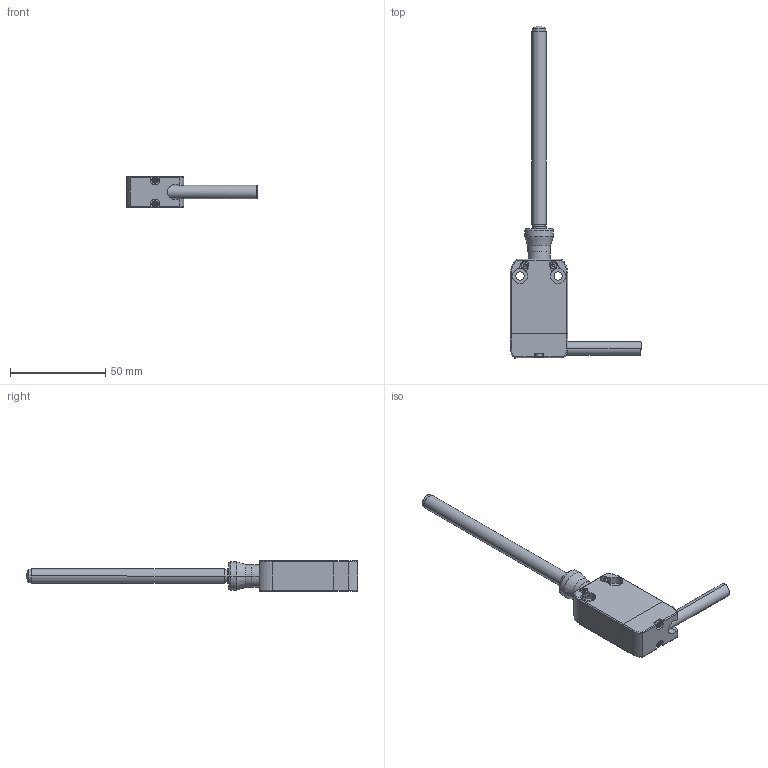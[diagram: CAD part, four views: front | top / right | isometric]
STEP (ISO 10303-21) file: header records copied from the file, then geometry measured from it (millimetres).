
FILE_DESCRIPTION (( 'STEP AP203' ), '1' );
FILE_NAME ('ZF_STEP_NA_xxx0HE-DNx.STEP', '2026-10-01T13:13:20', ( '' ), ( '' ), 'SwSTEP 2.0', 'SolidWorks 2023', '' );
FILE_SCHEMA (( 'CONFIG_CONTROL_DESIGN' ));
Length unit declared in the file: millimetre
Products named in the file (7): Pizzato_VN_CxxxDNx_default; ZF_STEP_VN_AA0HE; ZF_STEP_NA_xxx0HE-DNx; Pizzato_custodia_NA-NF; Pizzato_custodia_NA-NF_default; ZF_STEP_VN_CxxxDNx; Pizzato_VN_AA0HE
Assembly tree (6 placements, depth 3):
  ZF_STEP_NA_xxx0HE-DNx
    Pizzato_custodia_NA-NF
      Pizzato_custodia_NA-NF_default
    ZF_STEP_VN_AA0HE
      Pizzato_VN_AA0HE
    ZF_STEP_VN_CxxxDNx
      Pizzato_VN_CxxxDNx_default
Bounding box: 68.74 x 174.13 x 16 mm (x, y, z)
Volume: 31387.1 mm3; surface area: 12211 mm2
Topology: 3 solids, 3 shells, 507 faces, 1318 edges, 867 vertices
Faces by surface type: plane 245, cylinder 132, bspline 108, torus 20, cone 2
Entity records: 20006 total; most frequent: CARTESIAN_POINT 7318, ORIENTED_EDGE 2632, DIRECTION 2199, EDGE_CURVE 1316, VERTEX_POINT 867, LINE 795, VECTOR 795, AXIS2_PLACEMENT_3D 702
